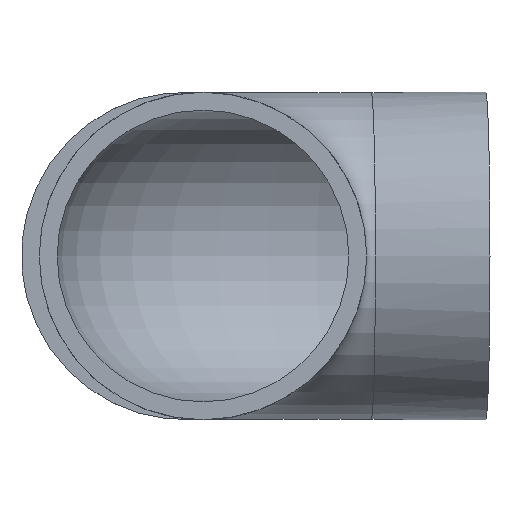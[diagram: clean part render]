
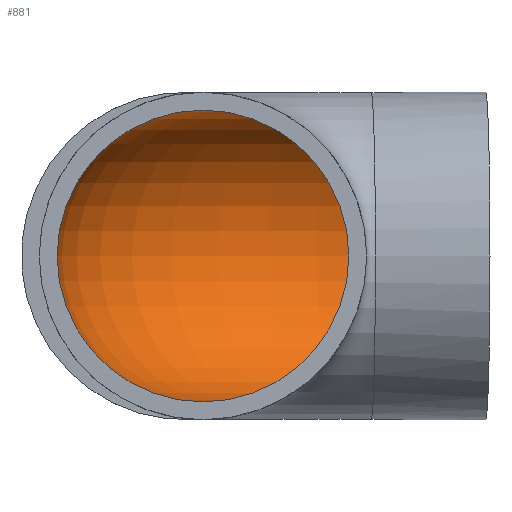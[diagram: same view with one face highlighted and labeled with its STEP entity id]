
A CAD part, front view. The second image highlights one B-rep face of the part: STEP entity #881.
In plain terms, the highlighted toroidal (fillet/blend) face has major radius 58 mm and minor radius 49 mm.
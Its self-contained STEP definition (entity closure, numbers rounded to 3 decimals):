
#26=FACE_BOUND($,#173,.T.);
#34=TOROIDAL_SURFACE($,#967,58.,49.);
#109=FACE_OUTER_BOUND($,#172,.T.);
#172=EDGE_LOOP($,(#753));
#173=EDGE_LOOP($,(#754));
#297=CIRCLE($,#968,49.);
#298=CIRCLE($,#969,49.);
#397=VERTEX_POINT($,#2394);
#398=VERTEX_POINT($,#2396);
#519=EDGE_CURVE($,#397,#397,#297,.T.);
#520=EDGE_CURVE($,#398,#398,#298,.T.);
#753=ORIENTED_EDGE($,*,*,#519,.F.);
#754=ORIENTED_EDGE($,*,*,#520,.T.);
#881=ADVANCED_FACE($,(#109,#26),#34,.F.);
#967=AXIS2_PLACEMENT_3D($,#2393,#1138,#1139);
#968=AXIS2_PLACEMENT_3D($,#2395,#1140,#1141);
#969=AXIS2_PLACEMENT_3D($,#2397,#1142,#1143);
#1138=DIRECTION('center_axis',(0.,0.,-1.));
#1139=DIRECTION('ref_axis',(-1.,0.,0.));
#1140=DIRECTION('center_axis',(-1.,-0.026,0.));
#1141=DIRECTION('ref_axis',(0.026,-1.,0.));
#1142=DIRECTION('center_axis',(0.,-1.,0.));
#1143=DIRECTION('ref_axis',(1.,0.,0.));
#2393=CARTESIAN_POINT('Origin',(58.,38.499,0.));
#2394=CARTESIAN_POINT('',(55.199,145.462,0.));
#2395=CARTESIAN_POINT('Origin',(56.482,96.479,0.));
#2396=CARTESIAN_POINT('',(-49.,38.499,0.));
#2397=CARTESIAN_POINT('Origin',(0.,38.499,0.));
